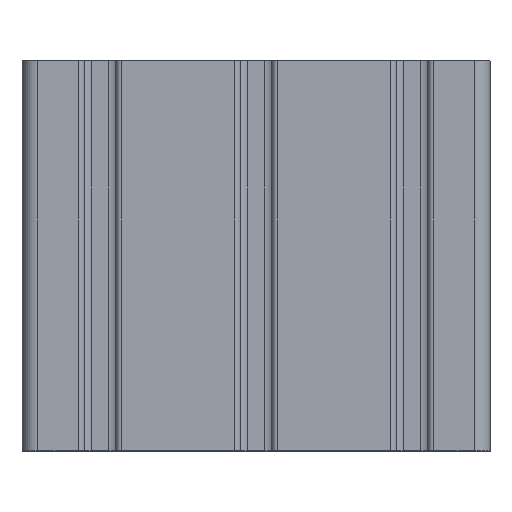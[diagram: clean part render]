
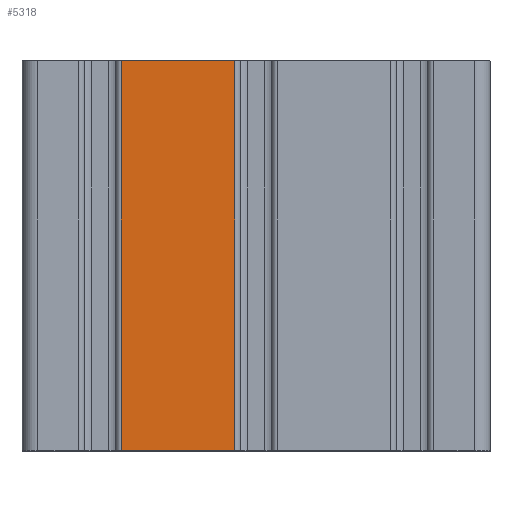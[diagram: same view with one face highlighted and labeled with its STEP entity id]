
A CAD part, top view. The second image highlights one B-rep face of the part: STEP entity #5318.
In plain terms, the highlighted planar face has unit normal (0, 0, 1).
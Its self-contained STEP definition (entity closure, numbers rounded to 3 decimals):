
#289 = CARTESIAN_POINT ( 'NONE',  ( -34.5, 50., 60. ) ) ;
#795 = LINE ( 'NONE', #10879, #1382 ) ;
#1153 = DIRECTION ( 'NONE',  ( 0., -1., 0. ) ) ;
#1382 = VECTOR ( 'NONE', #1641, 1000. ) ;
#1641 = DIRECTION ( 'NONE',  ( 0., -1., 0. ) ) ;
#1760 = VERTEX_POINT ( 'NONE', #289 ) ;
#2366 = VECTOR ( 'NONE', #2562, 1000. ) ;
#2442 = LINE ( 'NONE', #6705, #2366 ) ;
#2562 = DIRECTION ( 'NONE',  ( 1., 0., 0. ) ) ;
#3160 = VERTEX_POINT ( 'NONE', #3544 ) ;
#3226 = AXIS2_PLACEMENT_3D ( 'NONE', #6319, #7215, #10515 ) ;
#3495 = EDGE_CURVE ( 'NONE', #3160, #7610, #795, .T. ) ;
#3544 = CARTESIAN_POINT ( 'NONE',  ( -5.5, 50., 60. ) ) ;
#3843 = FACE_OUTER_BOUND ( 'NONE', #10801, .T. ) ;
#4243 = LINE ( 'NONE', #9724, #5079 ) ;
#5079 = VECTOR ( 'NONE', #8038, 1000. ) ;
#5318 = ADVANCED_FACE ( 'NONE', ( #3843 ), #8098, .F. ) ;
#5844 = ORIENTED_EDGE ( 'NONE', *, *, #9869, .T. ) ;
#6319 = CARTESIAN_POINT ( 'NONE',  ( -34.5, 50., 60. ) ) ;
#6476 = VECTOR ( 'NONE', #1153, 1000. ) ;
#6705 = CARTESIAN_POINT ( 'NONE',  ( -34.5, -50., 60. ) ) ;
#6844 = CARTESIAN_POINT ( 'NONE',  ( -34.5, -50., 60. ) ) ;
#6941 = ORIENTED_EDGE ( 'NONE', *, *, #10829, .F. ) ;
#7215 = DIRECTION ( 'NONE',  ( 0., 0., -1. ) ) ;
#7610 = VERTEX_POINT ( 'NONE', #10492 ) ;
#7776 = ORIENTED_EDGE ( 'NONE', *, *, #9673, .T. ) ;
#7938 = CARTESIAN_POINT ( 'NONE',  ( -34.5, 50., 60. ) ) ;
#8038 = DIRECTION ( 'NONE',  ( 1., 0., 0. ) ) ;
#8098 = PLANE ( 'NONE',  #3226 ) ;
#9673 = EDGE_CURVE ( 'NONE', #1760, #10325, #10409, .T. ) ;
#9724 = CARTESIAN_POINT ( 'NONE',  ( -34.5, 50., 60. ) ) ;
#9869 = EDGE_CURVE ( 'NONE', #10325, #7610, #2442, .T. ) ;
#9958 = ORIENTED_EDGE ( 'NONE', *, *, #3495, .F. ) ;
#10325 = VERTEX_POINT ( 'NONE', #6844 ) ;
#10409 = LINE ( 'NONE', #7938, #6476 ) ;
#10492 = CARTESIAN_POINT ( 'NONE',  ( -5.5, -50., 60. ) ) ;
#10515 = DIRECTION ( 'NONE',  ( -1., 0., 0. ) ) ;
#10801 = EDGE_LOOP ( 'NONE', ( #5844, #9958, #6941, #7776 ) ) ;
#10829 = EDGE_CURVE ( 'NONE', #1760, #3160, #4243, .T. ) ;
#10879 = CARTESIAN_POINT ( 'NONE',  ( -5.5, 50., 60. ) ) ;
